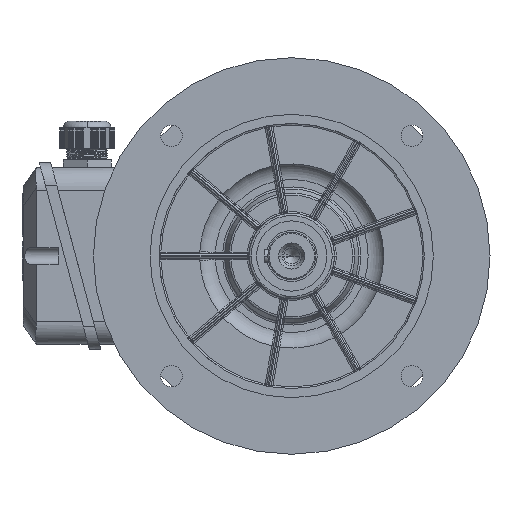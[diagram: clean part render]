
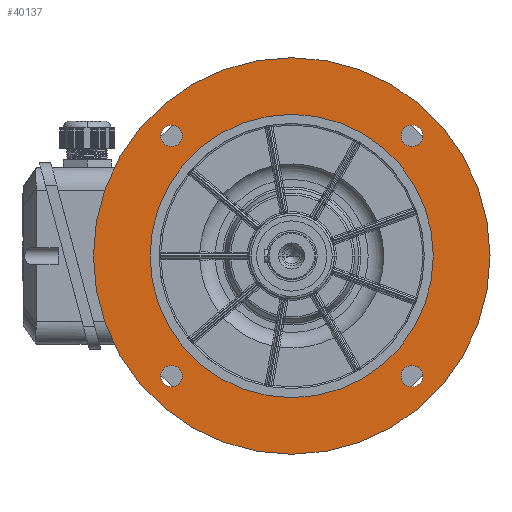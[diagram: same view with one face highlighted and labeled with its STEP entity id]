
A CAD part, left-side view. The second image highlights one B-rep face of the part: STEP entity #40137.
In plain terms, the highlighted planar face has unit normal (-1, 0, 0).
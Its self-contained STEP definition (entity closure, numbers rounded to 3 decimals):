
#627 = VERTEX_POINT ( 'NONE', #66946 ) ;
#2867 = EDGE_CURVE ( 'NONE', #65882, #32292, #11075, .T. ) ;
#2958 = CARTESIAN_POINT ( 'NONE',  ( 110., 0., 0. ) ) ;
#2978 = CARTESIAN_POINT ( 'NONE',  ( 110., 0., 0. ) ) ;
#3066 = EDGE_LOOP ( 'NONE', ( #12593, #38783 ) ) ;
#4701 = ORIENTED_EDGE ( 'NONE', *, *, #16574, .F. ) ;
#6770 = ORIENTED_EDGE ( 'NONE', *, *, #54167, .F. ) ;
#7406 = CARTESIAN_POINT ( 'NONE',  ( 110., 175., 0. ) ) ;
#7786 = CIRCLE ( 'NONE', #61804, 9.5 ) ;
#7941 = EDGE_LOOP ( 'NONE', ( #6770, #4701 ) ) ;
#8134 = CIRCLE ( 'NONE', #15334, 9.5 ) ;
#9078 = VERTEX_POINT ( 'NONE', #9469 ) ;
#9469 = CARTESIAN_POINT ( 'NONE',  ( 110., 125., 0. ) ) ;
#10116 = CIRCLE ( 'NONE', #67392, 9.5 ) ;
#11075 = CIRCLE ( 'NONE', #49744, 175. ) ;
#11527 = DIRECTION ( 'NONE',  ( 0., -1., 0. ) ) ;
#12230 = CARTESIAN_POINT ( 'NONE',  ( 110., -115.566, -106.066 ) ) ;
#12593 = ORIENTED_EDGE ( 'NONE', *, *, #58399, .F. ) ;
#13221 = EDGE_CURVE ( 'NONE', #62353, #9078, #59428, .T. ) ;
#13780 = CARTESIAN_POINT ( 'NONE',  ( 110., 106.066, 106.066 ) ) ;
#14007 = DIRECTION ( 'NONE',  ( -1., 0., 0. ) ) ;
#14248 = CARTESIAN_POINT ( 'NONE',  ( 110., 0., 0. ) ) ;
#15334 = AXIS2_PLACEMENT_3D ( 'NONE', #66840, #44570, #60736 ) ;
#15664 = AXIS2_PLACEMENT_3D ( 'NONE', #2958, #18646, #61992 ) ;
#16084 = DIRECTION ( 'NONE',  ( 0., 1., 0. ) ) ;
#16182 = VERTEX_POINT ( 'NONE', #37631 ) ;
#16556 = ORIENTED_EDGE ( 'NONE', *, *, #2867, .F. ) ;
#16574 = EDGE_CURVE ( 'NONE', #30170, #43882, #24596, .T. ) ;
#16805 = EDGE_CURVE ( 'NONE', #36162, #17378, #42985, .T. ) ;
#17378 = VERTEX_POINT ( 'NONE', #12230 ) ;
#17530 = DIRECTION ( 'NONE',  ( 0., -1., 0. ) ) ;
#18455 = CARTESIAN_POINT ( 'NONE',  ( 110., -106.066, 106.066 ) ) ;
#18646 = DIRECTION ( 'NONE',  ( 1., 0., 0. ) ) ;
#18806 = DIRECTION ( 'NONE',  ( 0., -1., 0. ) ) ;
#19089 = DIRECTION ( 'NONE',  ( 0., 1., 0. ) ) ;
#19643 = DIRECTION ( 'NONE',  ( -1., 0., 0. ) ) ;
#21449 = CIRCLE ( 'NONE', #15664, 175. ) ;
#23284 = EDGE_CURVE ( 'NONE', #9078, #62353, #45799, .T. ) ;
#24457 = DIRECTION ( 'NONE',  ( 0., -1., 0. ) ) ;
#24566 = DIRECTION ( 'NONE',  ( 1., 0., 0. ) ) ;
#24596 = CIRCLE ( 'NONE', #54725, 9.5 ) ;
#24874 = DIRECTION ( 'NONE',  ( -1., 0., 0. ) ) ;
#25027 = DIRECTION ( 'NONE',  ( 0., -1., 0. ) ) ;
#25032 = DIRECTION ( 'NONE',  ( 0., 1., 0. ) ) ;
#27070 = CARTESIAN_POINT ( 'NONE',  ( 110., 0., 0. ) ) ;
#27871 = CARTESIAN_POINT ( 'NONE',  ( 110., 106.066, 106.066 ) ) ;
#28023 = CARTESIAN_POINT ( 'NONE',  ( 110., 106.066, -106.066 ) ) ;
#28790 = EDGE_CURVE ( 'NONE', #627, #43596, #10116, .T. ) ;
#29380 = DIRECTION ( 'NONE',  ( -1., 0., 0. ) ) ;
#29747 = ORIENTED_EDGE ( 'NONE', *, *, #65190, .F. ) ;
#30170 = VERTEX_POINT ( 'NONE', #52948 ) ;
#30860 = ORIENTED_EDGE ( 'NONE', *, *, #28790, .F. ) ;
#32016 = ORIENTED_EDGE ( 'NONE', *, *, #23284, .T. ) ;
#32292 = VERTEX_POINT ( 'NONE', #32542 ) ;
#32542 = CARTESIAN_POINT ( 'NONE',  ( 110., -175., 0. ) ) ;
#33077 = AXIS2_PLACEMENT_3D ( 'NONE', #27070, #58297, #16084 ) ;
#34409 = CARTESIAN_POINT ( 'NONE',  ( 110., 115.566, 106.066 ) ) ;
#35088 = DIRECTION ( 'NONE',  ( 1., 0., 0. ) ) ;
#35690 = EDGE_CURVE ( 'NONE', #32292, #65882, #21449, .T. ) ;
#35830 = CARTESIAN_POINT ( 'NONE',  ( 110., -106.066, -106.066 ) ) ;
#36162 = VERTEX_POINT ( 'NONE', #55593 ) ;
#37027 = CIRCLE ( 'NONE', #60203, 9.5 ) ;
#37631 = CARTESIAN_POINT ( 'NONE',  ( 110., 96.566, 106.066 ) ) ;
#38783 = ORIENTED_EDGE ( 'NONE', *, *, #16805, .F. ) ;
#39551 = EDGE_CURVE ( 'NONE', #52130, #16182, #37027, .T. ) ;
#40137 = ADVANCED_FACE ( 'NONE', ( #65450, #47044, #59593, #53726, #45348, #51196 ), #55655, .T. ) ;
#40624 = CARTESIAN_POINT ( 'NONE',  ( 110., -106.066, 106.066 ) ) ;
#42985 = CIRCLE ( 'NONE', #67824, 9.5 ) ;
#43596 = VERTEX_POINT ( 'NONE', #58402 ) ;
#43882 = VERTEX_POINT ( 'NONE', #66804 ) ;
#44570 = DIRECTION ( 'NONE',  ( -1., 0., 0. ) ) ;
#44777 = AXIS2_PLACEMENT_3D ( 'NONE', #27871, #65426, #11527 ) ;
#45348 = FACE_BOUND ( 'NONE', #45666, .T. ) ;
#45666 = EDGE_LOOP ( 'NONE', ( #47035, #30860 ) ) ;
#45799 = CIRCLE ( 'NONE', #52809, 125. ) ;
#45849 = DIRECTION ( 'NONE',  ( 0., 1., 0. ) ) ;
#47035 = ORIENTED_EDGE ( 'NONE', *, *, #53539, .F. ) ;
#47044 = FACE_BOUND ( 'NONE', #3066, .T. ) ;
#47284 = ORIENTED_EDGE ( 'NONE', *, *, #13221, .T. ) ;
#48142 = CARTESIAN_POINT ( 'NONE',  ( 110., 175., 0. ) ) ;
#49042 = AXIS2_PLACEMENT_3D ( 'NONE', #7406, #29380, #19089 ) ;
#49744 = AXIS2_PLACEMENT_3D ( 'NONE', #2978, #35088, #45849 ) ;
#49992 = EDGE_LOOP ( 'NONE', ( #32016, #47284 ) ) ;
#51193 = CARTESIAN_POINT ( 'NONE',  ( 110., 106.066, -106.066 ) ) ;
#51196 = FACE_BOUND ( 'NONE', #49992, .T. ) ;
#51412 = CIRCLE ( 'NONE', #60888, 9.5 ) ;
#52130 = VERTEX_POINT ( 'NONE', #34409 ) ;
#52809 = AXIS2_PLACEMENT_3D ( 'NONE', #14248, #24566, #25032 ) ;
#52948 = CARTESIAN_POINT ( 'NONE',  ( 110., -96.566, 106.066 ) ) ;
#53539 = EDGE_CURVE ( 'NONE', #43596, #627, #51412, .T. ) ;
#53726 = FACE_BOUND ( 'NONE', #64632, .T. ) ;
#54167 = EDGE_CURVE ( 'NONE', #43882, #30170, #7786, .T. ) ;
#54230 = ORIENTED_EDGE ( 'NONE', *, *, #39551, .F. ) ;
#54725 = AXIS2_PLACEMENT_3D ( 'NONE', #40624, #24874, #18806 ) ;
#55359 = ORIENTED_EDGE ( 'NONE', *, *, #35690, .F. ) ;
#55593 = CARTESIAN_POINT ( 'NONE',  ( 110., -96.566, -106.066 ) ) ;
#55655 = PLANE ( 'NONE',  #49042 ) ;
#55942 = DIRECTION ( 'NONE',  ( 0., -1., 0. ) ) ;
#56573 = DIRECTION ( 'NONE',  ( -1., 0., 0. ) ) ;
#58297 = DIRECTION ( 'NONE',  ( 1., 0., 0. ) ) ;
#58399 = EDGE_CURVE ( 'NONE', #17378, #36162, #8134, .T. ) ;
#58402 = CARTESIAN_POINT ( 'NONE',  ( 110., 96.566, -106.066 ) ) ;
#59428 = CIRCLE ( 'NONE', #33077, 125. ) ;
#59593 = FACE_BOUND ( 'NONE', #7941, .T. ) ;
#60203 = AXIS2_PLACEMENT_3D ( 'NONE', #13780, #14007, #67012 ) ;
#60533 = CARTESIAN_POINT ( 'NONE',  ( 110., -125., 0. ) ) ;
#60736 = DIRECTION ( 'NONE',  ( 0., -1., 0. ) ) ;
#60878 = DIRECTION ( 'NONE',  ( -1., 0., 0. ) ) ;
#60888 = AXIS2_PLACEMENT_3D ( 'NONE', #51193, #56573, #24457 ) ;
#61338 = DIRECTION ( 'NONE',  ( -1., 0., 0. ) ) ;
#61804 = AXIS2_PLACEMENT_3D ( 'NONE', #18455, #61338, #55942 ) ;
#61992 = DIRECTION ( 'NONE',  ( 0., 1., 0. ) ) ;
#62342 = CIRCLE ( 'NONE', #44777, 9.5 ) ;
#62353 = VERTEX_POINT ( 'NONE', #60533 ) ;
#64632 = EDGE_LOOP ( 'NONE', ( #29747, #54230 ) ) ;
#65190 = EDGE_CURVE ( 'NONE', #16182, #52130, #62342, .T. ) ;
#65426 = DIRECTION ( 'NONE',  ( -1., 0., 0. ) ) ;
#65450 = FACE_OUTER_BOUND ( 'NONE', #67152, .T. ) ;
#65882 = VERTEX_POINT ( 'NONE', #48142 ) ;
#66804 = CARTESIAN_POINT ( 'NONE',  ( 110., -115.566, 106.066 ) ) ;
#66840 = CARTESIAN_POINT ( 'NONE',  ( 110., -106.066, -106.066 ) ) ;
#66946 = CARTESIAN_POINT ( 'NONE',  ( 110., 115.566, -106.066 ) ) ;
#67012 = DIRECTION ( 'NONE',  ( 0., -1., 0. ) ) ;
#67152 = EDGE_LOOP ( 'NONE', ( #16556, #55359 ) ) ;
#67392 = AXIS2_PLACEMENT_3D ( 'NONE', #28023, #60878, #17530 ) ;
#67824 = AXIS2_PLACEMENT_3D ( 'NONE', #35830, #19643, #25027 ) ;
